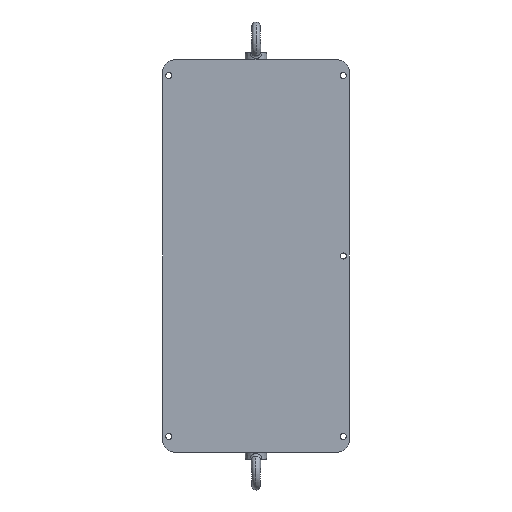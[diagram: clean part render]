
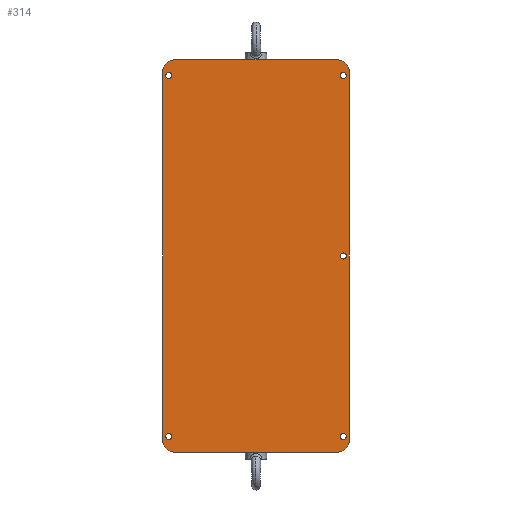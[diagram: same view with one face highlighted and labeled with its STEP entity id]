
A CAD part, left-side view. The second image highlights one B-rep face of the part: STEP entity #314.
In plain terms, the highlighted planar face has unit normal (-1, 0, 0).
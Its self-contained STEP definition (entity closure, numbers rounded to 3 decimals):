
#97=CARTESIAN_POINT('Vertex',(-1867.5,140.,-326.)) ;
#100=CARTESIAN_POINT('Line Origine',(-1867.5,275.,-326.)) ;
#104=CARTESIAN_POINT('Vertex',(-1867.5,410.,-326.)) ;
#162=CARTESIAN_POINT('Axis2P3D Location',(-1867.5,165.,0.)) ;
#167=CARTESIAN_POINT('Axis2P3D Location',(-1867.5,410.,306.)) ;
#171=CARTESIAN_POINT('Vertex',(-1867.5,430.,306.)) ;
#173=CARTESIAN_POINT('Vertex',(-1867.5,410.,326.)) ;
#176=CARTESIAN_POINT('Line Origine',(-1867.5,430.,0.)) ;
#180=CARTESIAN_POINT('Vertex',(-1867.5,430.,-306.)) ;
#183=CARTESIAN_POINT('Axis2P3D Location',(-1867.5,410.,-306.)) ;
#188=CARTESIAN_POINT('Axis2P3D Location',(-1867.5,140.,-306.)) ;
#192=CARTESIAN_POINT('Vertex',(-1867.5,120.,-306.)) ;
#195=CARTESIAN_POINT('Line Origine',(-1867.5,120.,0.)) ;
#199=CARTESIAN_POINT('Vertex',(-1867.5,120.,306.)) ;
#202=CARTESIAN_POINT('Axis2P3D Location',(-1867.5,140.,306.)) ;
#206=CARTESIAN_POINT('Vertex',(-1867.5,140.,326.)) ;
#209=CARTESIAN_POINT('Line Origine',(-1867.5,275.,326.)) ;
#224=CARTESIAN_POINT('Axis2P3D Location',(-1867.5,420.,300.)) ;
#228=CARTESIAN_POINT('Vertex',(-1867.5,420.,295.)) ;
#230=CARTESIAN_POINT('Vertex',(-1867.5,420.,305.)) ;
#233=CARTESIAN_POINT('Axis2P3D Location',(-1867.5,420.,300.)) ;
#242=CARTESIAN_POINT('Axis2P3D Location',(-1867.5,130.,0.)) ;
#246=CARTESIAN_POINT('Vertex',(-1867.5,130.,-5.)) ;
#248=CARTESIAN_POINT('Vertex',(-1867.5,130.,5.)) ;
#251=CARTESIAN_POINT('Axis2P3D Location',(-1867.5,130.,0.)) ;
#260=CARTESIAN_POINT('Axis2P3D Location',(-1867.5,130.,-300.)) ;
#264=CARTESIAN_POINT('Vertex',(-1867.5,130.,-305.)) ;
#266=CARTESIAN_POINT('Vertex',(-1867.5,130.,-295.)) ;
#269=CARTESIAN_POINT('Axis2P3D Location',(-1867.5,130.,-300.)) ;
#278=CARTESIAN_POINT('Axis2P3D Location',(-1867.5,130.,300.)) ;
#282=CARTESIAN_POINT('Vertex',(-1867.5,130.,305.)) ;
#284=CARTESIAN_POINT('Vertex',(-1867.5,130.,295.)) ;
#287=CARTESIAN_POINT('Axis2P3D Location',(-1867.5,130.,300.)) ;
#296=CARTESIAN_POINT('Axis2P3D Location',(-1867.5,420.,-300.)) ;
#300=CARTESIAN_POINT('Vertex',(-1867.5,420.,-295.)) ;
#302=CARTESIAN_POINT('Vertex',(-1867.5,420.,-305.)) ;
#305=CARTESIAN_POINT('Axis2P3D Location',(-1867.5,420.,-300.)) ;
#102=VECTOR('Line Direction',#101,1.) ;
#178=VECTOR('Line Direction',#177,1.) ;
#197=VECTOR('Line Direction',#196,1.) ;
#211=VECTOR('Line Direction',#210,1.) ;
#101=DIRECTION('Vector Direction',(0.,1.,0.)) ;
#163=DIRECTION('Axis2P3D Direction',(1.,-0.,0.)) ;
#164=DIRECTION('Axis2P3D XDirection',(0.,0.,-1.)) ;
#168=DIRECTION('Axis2P3D Direction',(1.,-0.,0.)) ;
#177=DIRECTION('Vector Direction',(0.,0.,-1.)) ;
#184=DIRECTION('Axis2P3D Direction',(1.,-0.,0.)) ;
#189=DIRECTION('Axis2P3D Direction',(1.,-0.,0.)) ;
#196=DIRECTION('Vector Direction',(0.,0.,-1.)) ;
#203=DIRECTION('Axis2P3D Direction',(1.,-0.,0.)) ;
#210=DIRECTION('Vector Direction',(0.,1.,0.)) ;
#225=DIRECTION('Axis2P3D Direction',(1.,-0.,0.)) ;
#234=DIRECTION('Axis2P3D Direction',(1.,-0.,0.)) ;
#243=DIRECTION('Axis2P3D Direction',(1.,-0.,0.)) ;
#252=DIRECTION('Axis2P3D Direction',(1.,-0.,0.)) ;
#261=DIRECTION('Axis2P3D Direction',(1.,-0.,0.)) ;
#270=DIRECTION('Axis2P3D Direction',(1.,-0.,0.)) ;
#279=DIRECTION('Axis2P3D Direction',(1.,-0.,0.)) ;
#288=DIRECTION('Axis2P3D Direction',(1.,-0.,0.)) ;
#297=DIRECTION('Axis2P3D Direction',(1.,-0.,0.)) ;
#306=DIRECTION('Axis2P3D Direction',(1.,-0.,0.)) ;
#165=AXIS2_PLACEMENT_3D('Plane Axis2P3D',#162,#163,#164) ;
#169=AXIS2_PLACEMENT_3D('Circle Axis2P3D',#167,#168,$) ;
#185=AXIS2_PLACEMENT_3D('Circle Axis2P3D',#183,#184,$) ;
#190=AXIS2_PLACEMENT_3D('Circle Axis2P3D',#188,#189,$) ;
#204=AXIS2_PLACEMENT_3D('Circle Axis2P3D',#202,#203,$) ;
#226=AXIS2_PLACEMENT_3D('Circle Axis2P3D',#224,#225,$) ;
#235=AXIS2_PLACEMENT_3D('Circle Axis2P3D',#233,#234,$) ;
#244=AXIS2_PLACEMENT_3D('Circle Axis2P3D',#242,#243,$) ;
#253=AXIS2_PLACEMENT_3D('Circle Axis2P3D',#251,#252,$) ;
#262=AXIS2_PLACEMENT_3D('Circle Axis2P3D',#260,#261,$) ;
#271=AXIS2_PLACEMENT_3D('Circle Axis2P3D',#269,#270,$) ;
#280=AXIS2_PLACEMENT_3D('Circle Axis2P3D',#278,#279,$) ;
#289=AXIS2_PLACEMENT_3D('Circle Axis2P3D',#287,#288,$) ;
#298=AXIS2_PLACEMENT_3D('Circle Axis2P3D',#296,#297,$) ;
#307=AXIS2_PLACEMENT_3D('Circle Axis2P3D',#305,#306,$) ;
#103=LINE('Line',#100,#102) ;
#179=LINE('Line',#176,#178) ;
#198=LINE('Line',#195,#197) ;
#212=LINE('Line',#209,#211) ;
#170=CIRCLE('generated circle',#169,20.) ;
#186=CIRCLE('generated circle',#185,20.) ;
#191=CIRCLE('generated circle',#190,20.) ;
#205=CIRCLE('generated circle',#204,20.) ;
#227=CIRCLE('generated circle',#226,5.) ;
#236=CIRCLE('generated circle',#235,5.) ;
#245=CIRCLE('generated circle',#244,5.) ;
#254=CIRCLE('generated circle',#253,5.) ;
#263=CIRCLE('generated circle',#262,5.) ;
#272=CIRCLE('generated circle',#271,5.) ;
#281=CIRCLE('generated circle',#280,5.) ;
#290=CIRCLE('generated circle',#289,5.) ;
#299=CIRCLE('generated circle',#298,5.) ;
#308=CIRCLE('generated circle',#307,5.) ;
#166=PLANE('',#165) ;
#241=FACE_BOUND('',#238,.T.) ;
#259=FACE_BOUND('',#256,.T.) ;
#277=FACE_BOUND('',#274,.T.) ;
#295=FACE_BOUND('',#292,.T.) ;
#313=FACE_BOUND('',#310,.T.) ;
#106=EDGE_CURVE('',#98,#105,#103,.T.) ;
#175=EDGE_CURVE('',#172,#174,#170,.T.) ;
#182=EDGE_CURVE('',#181,#172,#179,.F.) ;
#187=EDGE_CURVE('',#105,#181,#186,.T.) ;
#194=EDGE_CURVE('',#193,#98,#191,.T.) ;
#201=EDGE_CURVE('',#200,#193,#198,.T.) ;
#208=EDGE_CURVE('',#207,#200,#205,.T.) ;
#213=EDGE_CURVE('',#174,#207,#212,.F.) ;
#232=EDGE_CURVE('',#229,#231,#227,.T.) ;
#237=EDGE_CURVE('',#231,#229,#236,.T.) ;
#250=EDGE_CURVE('',#247,#249,#245,.T.) ;
#255=EDGE_CURVE('',#249,#247,#254,.T.) ;
#268=EDGE_CURVE('',#265,#267,#263,.T.) ;
#273=EDGE_CURVE('',#267,#265,#272,.T.) ;
#286=EDGE_CURVE('',#283,#285,#281,.T.) ;
#291=EDGE_CURVE('',#285,#283,#290,.T.) ;
#304=EDGE_CURVE('',#301,#303,#299,.T.) ;
#309=EDGE_CURVE('',#303,#301,#308,.T.) ;
#215=ORIENTED_EDGE('',*,*,#175,.F.) ;
#216=ORIENTED_EDGE('',*,*,#182,.F.) ;
#217=ORIENTED_EDGE('',*,*,#187,.F.) ;
#218=ORIENTED_EDGE('',*,*,#106,.F.) ;
#219=ORIENTED_EDGE('',*,*,#194,.F.) ;
#220=ORIENTED_EDGE('',*,*,#201,.F.) ;
#221=ORIENTED_EDGE('',*,*,#208,.F.) ;
#222=ORIENTED_EDGE('',*,*,#213,.F.) ;
#239=ORIENTED_EDGE('',*,*,#232,.T.) ;
#240=ORIENTED_EDGE('',*,*,#237,.T.) ;
#257=ORIENTED_EDGE('',*,*,#250,.T.) ;
#258=ORIENTED_EDGE('',*,*,#255,.T.) ;
#275=ORIENTED_EDGE('',*,*,#268,.T.) ;
#276=ORIENTED_EDGE('',*,*,#273,.T.) ;
#293=ORIENTED_EDGE('',*,*,#286,.T.) ;
#294=ORIENTED_EDGE('',*,*,#291,.T.) ;
#311=ORIENTED_EDGE('',*,*,#304,.T.) ;
#312=ORIENTED_EDGE('',*,*,#309,.T.) ;
#214=EDGE_LOOP('',(#215,#216,#217,#218,#219,#220,#221,#222)) ;
#238=EDGE_LOOP('',(#239,#240)) ;
#256=EDGE_LOOP('',(#257,#258)) ;
#274=EDGE_LOOP('',(#275,#276)) ;
#292=EDGE_LOOP('',(#293,#294)) ;
#310=EDGE_LOOP('',(#311,#312)) ;
#98=VERTEX_POINT('',#97) ;
#105=VERTEX_POINT('',#104) ;
#172=VERTEX_POINT('',#171) ;
#174=VERTEX_POINT('',#173) ;
#181=VERTEX_POINT('',#180) ;
#193=VERTEX_POINT('',#192) ;
#200=VERTEX_POINT('',#199) ;
#207=VERTEX_POINT('',#206) ;
#229=VERTEX_POINT('',#228) ;
#231=VERTEX_POINT('',#230) ;
#247=VERTEX_POINT('',#246) ;
#249=VERTEX_POINT('',#248) ;
#265=VERTEX_POINT('',#264) ;
#267=VERTEX_POINT('',#266) ;
#283=VERTEX_POINT('',#282) ;
#285=VERTEX_POINT('',#284) ;
#301=VERTEX_POINT('',#300) ;
#303=VERTEX_POINT('',#302) ;
#314=ADVANCED_FACE('\X2\0423041D041C0422\X0\.01-077.202.062.001 \X2\043C043004420440043804460430\X0\ \X2\0430043B044E043C0438043D0438043504320430044F\X0\',(#223,#241,#259,#277,#295,#313),#166,.F.) ;
#223=FACE_OUTER_BOUND('',#214,.T.) ;
